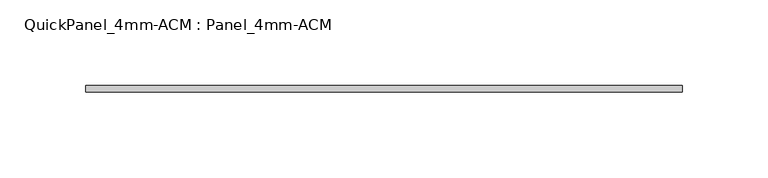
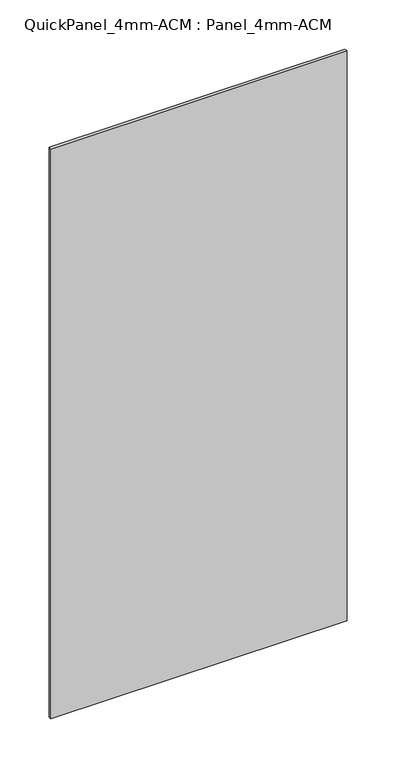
"""IFC4 building model written with IfcOpenShell, lengths in millimetres: plate geometry, QuickPanel_4mm-ACM : Panel_4mm-ACM."""

from ifc_helpers import new_model, si_unit, origin, origin_with_axes, place, context, project, spatial, polyline, outline, extrude, source, transform, mapped, element, save


def quickpanel_4mm_acm_panel_4mm_acm_23777331(model_context):
    return source(origin(), model_context, "Body", "SweptSolid", [
        extrude(outline(polyline([(-174.1963747, -6.096), (174.1963747, -6.096), (174.1963747, -9.906), (-174.1963747, -9.906), (-174.1963747, -6.096)])), origin_with_axes(), (0.0, 0.0, 1.0), 708.2898236),
    ])


if __name__ == "__main__":
    model = new_model("IFC4")
    model_context = context("Model", 3, world=origin())
    ifc_project = project(units=[si_unit("LENGTHUNIT", "METRE", prefix="MILLI")], contexts=[model_context])
    site = spatial("IfcSite", under=ifc_project)
    building = spatial("IfcBuilding", under=site)
    placement = place(None, origin())
    quickpanel_4mm_acm_panel_4mm_acm_shape = quickpanel_4mm_acm_panel_4mm_acm_23777331(model_context)
    element("IfcPlate", 1, ObjectType="QuickPanel_4mm-ACM : Panel_4mm-ACM", at=placement, inside=building, context=model_context, shape_type="MappedRepresentation", body=[
        mapped(quickpanel_4mm_acm_panel_4mm_acm_shape, transform((0.0, 0.0, 0.0), x_axis=(1.0, 0.0, 0.0), y_axis=(0.0, 1.0, 0.0), z_axis=(0.0, 0.0, 1.0))),
    ])
    save(model, "model.ifc")
